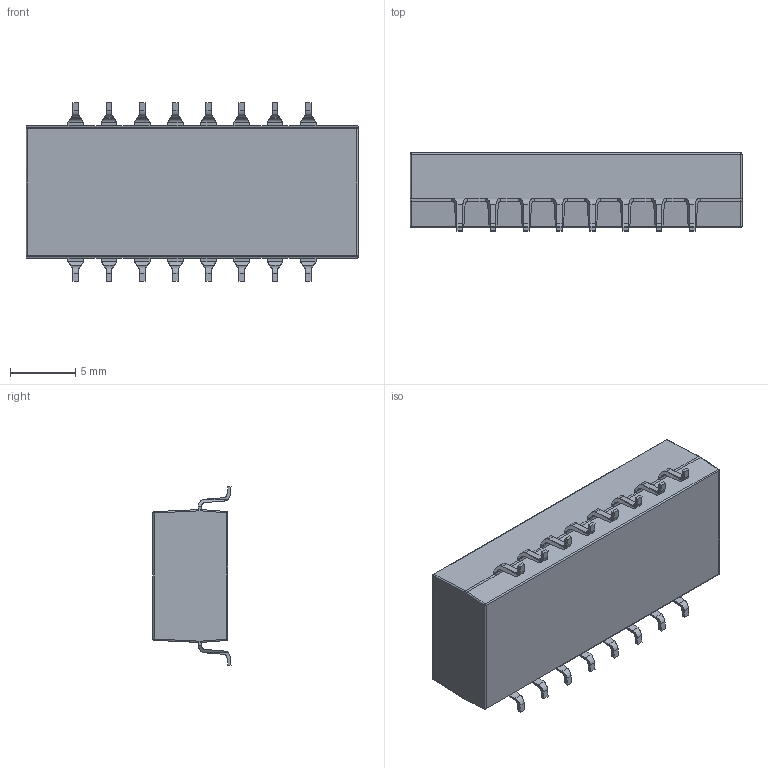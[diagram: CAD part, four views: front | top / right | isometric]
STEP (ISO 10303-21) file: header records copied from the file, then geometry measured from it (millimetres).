
FILE_DESCRIPTION (( 'STEP AP214' ), '1' );
FILE_NAME ('H1086NL_3D.STEP', '2018-06-20T08:49:20', ( '' ), ( '' ), 'SwSTEP 2.0', 'SolidWorks 2015', '' );
FILE_SCHEMA (( 'AUTOMOTIVE_DESIGN' ));
Length unit declared in the file: millimetre
Products named in the file (1): H1086NL_3D
Bounding box: 25.4 x 5.97 x 13.65 mm (x, y, z)
Volume: 1465.2 mm3; surface area: 999.4 mm2
Topology: 1 solids, 1 shells, 345 faces, 922 edges, 580 vertices
Faces by surface type: plane 251, cylinder 86, torus 8
Entity records: 10776 total; most frequent: CARTESIAN_POINT 2412, ORIENTED_EDGE 1844, DIRECTION 1630, EDGE_CURVE 922, LINE 670, VECTOR 670, VERTEX_POINT 580, AXIS2_PLACEMENT_3D 480
